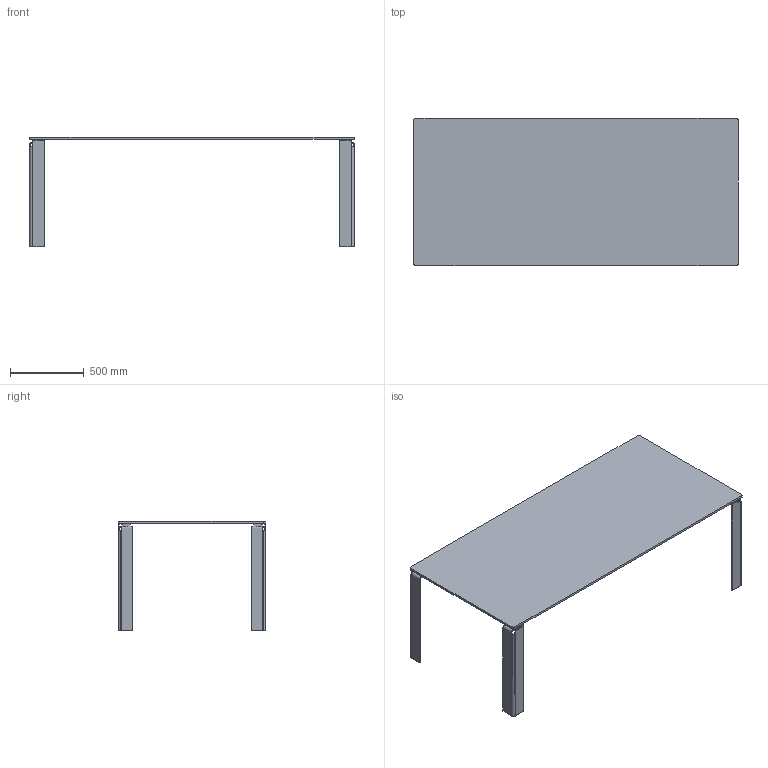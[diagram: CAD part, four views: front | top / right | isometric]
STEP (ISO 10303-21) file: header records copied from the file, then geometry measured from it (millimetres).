
FILE_DESCRIPTION(/* description */ (''),/* implementation_level */ '2;1');
FILE_NAME(/* name */ '4012AC - Newton 200x100 Acciaio',/* time_stamp */ '2012-06-20T09:47:31+02:00',/* author */ (''),/* organization */ (''),/* preprocessor_version */ 'ST-DEVELOPER v10',/* originating_system */ '',/* authorisation */ '');
FILE_SCHEMA (('CONFIG_CONTROL_DESIGN'));
Length unit declared in the file: millimetre
Products named in the file (1): 1
Bounding box: 2200 x 1000 x 742 mm (x, y, z)
Volume: 36775393 mm3; surface area: 5780058.7 mm2
Topology: 9 solids, 9 shells, 168 faces, 394 edges, 236 vertices
Faces by surface type: bspline 94, plane 74
Entity records: 5126 total; most frequent: CARTESIAN_POINT 2568, ORIENTED_EDGE 788, EDGE_CURVE 394, VERTEX_POINT 236, B_SPLINE_CURVE_WITH_KNOTS 226, EDGE_LOOP 200, ADVANCED_FACE 168, FACE_OUTER_BOUND 168
